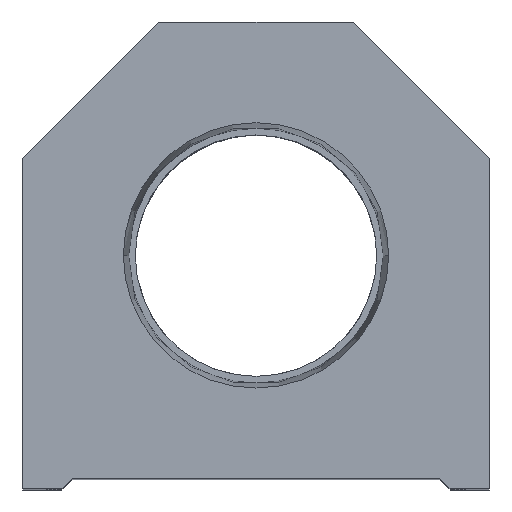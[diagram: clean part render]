
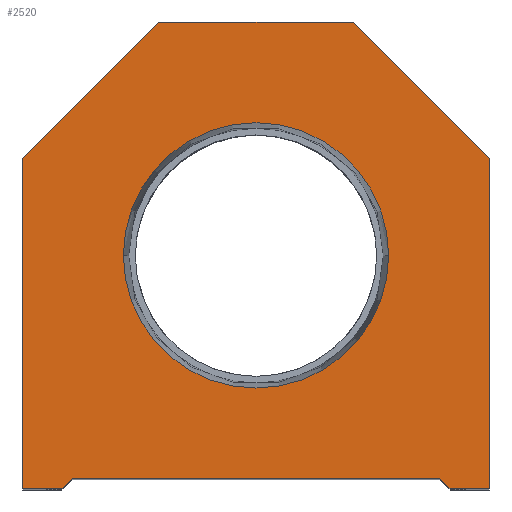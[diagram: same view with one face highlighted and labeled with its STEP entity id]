
A CAD part, top view. The second image highlights one B-rep face of the part: STEP entity #2520.
In plain terms, the highlighted planar face has unit normal (0, 0, 1).
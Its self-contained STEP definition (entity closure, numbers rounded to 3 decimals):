
#177 = CARTESIAN_POINT ( 'NONE',  ( 12.647, 22.25, 0. ) ) ;
#229 = VECTOR ( 'NONE', #13199, 1000. ) ;
#311 = VECTOR ( 'NONE', #10716, 1000. ) ;
#479 = FACE_BOUND ( 'NONE', #10003, .T. ) ;
#563 = ORIENTED_EDGE ( 'NONE', *, *, #9190, .T. ) ;
#640 = CARTESIAN_POINT ( 'NONE',  ( 0., 0., 0. ) ) ;
#897 = VERTEX_POINT ( 'NONE', #14381 ) ;
#980 = DIRECTION ( 'NONE',  ( 1., 0., 0. ) ) ;
#1017 = CIRCLE ( 'NONE', #10119, 12.647 ) ;
#1148 = VECTOR ( 'NONE', #6695, 1000. ) ;
#1155 = CARTESIAN_POINT ( 'NONE',  ( -18.5, 0., 0. ) ) ;
#1500 = EDGE_CURVE ( 'NONE', #14020, #10409, #1636, .T. ) ;
#1609 = VERTEX_POINT ( 'NONE', #1155 ) ;
#1636 = LINE ( 'NONE', #2704, #6437 ) ;
#1910 = EDGE_CURVE ( 'NONE', #8959, #1609, #4456, .T. ) ;
#1966 = CARTESIAN_POINT ( 'NONE',  ( -17.5, 0., 0. ) ) ;
#2080 = CARTESIAN_POINT ( 'NONE',  ( 9.25, 44.5, 0. ) ) ;
#2326 = VERTEX_POINT ( 'NONE', #13251 ) ;
#2350 = ORIENTED_EDGE ( 'NONE', *, *, #11748, .T. ) ;
#2433 = CARTESIAN_POINT ( 'NONE',  ( -17.5, 1., 0. ) ) ;
#2520 = ADVANCED_FACE ( 'NONE', ( #479, #8076 ), #11762, .T. ) ;
#2613 = EDGE_CURVE ( 'NONE', #10409, #5642, #10792, .T. ) ;
#2666 = ORIENTED_EDGE ( 'NONE', *, *, #7105, .F. ) ;
#2704 = CARTESIAN_POINT ( 'NONE',  ( 9.25, 44.5, 0. ) ) ;
#2711 = CARTESIAN_POINT ( 'NONE',  ( 22.25, 31.5, 0. ) ) ;
#2776 = CARTESIAN_POINT ( 'NONE',  ( -17.5, 1., 0. ) ) ;
#3082 = AXIS2_PLACEMENT_3D ( 'NONE', #5364, #11197, #8797 ) ;
#3129 = CARTESIAN_POINT ( 'NONE',  ( -22.25, 0., 0. ) ) ;
#3941 = CARTESIAN_POINT ( 'NONE',  ( -9.25, 44.5, 0. ) ) ;
#4157 = VERTEX_POINT ( 'NONE', #11178 ) ;
#4220 = ORIENTED_EDGE ( 'NONE', *, *, #14326, .T. ) ;
#4413 = DIRECTION ( 'NONE',  ( 0., 0., 1. ) ) ;
#4456 = LINE ( 'NONE', #1966, #11320 ) ;
#4932 = CIRCLE ( 'NONE', #3082, 12.647 ) ;
#5261 = ORIENTED_EDGE ( 'NONE', *, *, #11035, .T. ) ;
#5364 = CARTESIAN_POINT ( 'NONE',  ( 0., 22.25, 0. ) ) ;
#5642 = VERTEX_POINT ( 'NONE', #6091 ) ;
#6091 = CARTESIAN_POINT ( 'NONE',  ( -22.25, 31.5, 0. ) ) ;
#6147 = ORIENTED_EDGE ( 'NONE', *, *, #11644, .T. ) ;
#6437 = VECTOR ( 'NONE', #7854, 1000. ) ;
#6695 = DIRECTION ( 'NONE',  ( 0.707, -0.707, 0. ) ) ;
#7105 = EDGE_CURVE ( 'NONE', #897, #14764, #4932, .T. ) ;
#7559 = ORIENTED_EDGE ( 'NONE', *, *, #2613, .T. ) ;
#7692 = ORIENTED_EDGE ( 'NONE', *, *, #1500, .T. ) ;
#7751 = CARTESIAN_POINT ( 'NONE',  ( -22.25, 0., 0. ) ) ;
#7777 = CARTESIAN_POINT ( 'NONE',  ( 0., 22.25, 0. ) ) ;
#7854 = DIRECTION ( 'NONE',  ( -1., 0., 0. ) ) ;
#8076 = FACE_OUTER_BOUND ( 'NONE', #8593, .T. ) ;
#8291 = LINE ( 'NONE', #13285, #11559 ) ;
#8397 = CARTESIAN_POINT ( 'NONE',  ( -22.25, 31.5, 0. ) ) ;
#8467 = DIRECTION ( 'NONE',  ( 0., 1., 0. ) ) ;
#8507 = VERTEX_POINT ( 'NONE', #2776 ) ;
#8593 = EDGE_LOOP ( 'NONE', ( #12245, #6147, #9953, #2350, #4220, #5261, #563, #7692, #7559, #14082 ) ) ;
#8797 = DIRECTION ( 'NONE',  ( 1., 0., 0. ) ) ;
#8849 = DIRECTION ( 'NONE',  ( 1., 0., 0. ) ) ;
#8959 = VERTEX_POINT ( 'NONE', #7751 ) ;
#9190 = EDGE_CURVE ( 'NONE', #15436, #14020, #14027, .T. ) ;
#9198 = DIRECTION ( 'NONE',  ( 1., 0., 0. ) ) ;
#9297 = EDGE_CURVE ( 'NONE', #5642, #8959, #14271, .T. ) ;
#9502 = EDGE_CURVE ( 'NONE', #14764, #897, #1017, .T. ) ;
#9953 = ORIENTED_EDGE ( 'NONE', *, *, #11946, .T. ) ;
#10003 = EDGE_LOOP ( 'NONE', ( #13727, #2666 ) ) ;
#10034 = DIRECTION ( 'NONE',  ( 0.707, 0.707, 0. ) ) ;
#10119 = AXIS2_PLACEMENT_3D ( 'NONE', #7777, #12462, #8849 ) ;
#10322 = CARTESIAN_POINT ( 'NONE',  ( 22.25, 0., 0. ) ) ;
#10409 = VERTEX_POINT ( 'NONE', #3941 ) ;
#10491 = CARTESIAN_POINT ( 'NONE',  ( 17.5, 1., 0. ) ) ;
#10716 = DIRECTION ( 'NONE',  ( -0.707, -0.707, 0. ) ) ;
#10792 = LINE ( 'NONE', #8397, #311 ) ;
#11035 = EDGE_CURVE ( 'NONE', #4157, #15436, #13066, .T. ) ;
#11084 = LINE ( 'NONE', #16016, #12803 ) ;
#11178 = CARTESIAN_POINT ( 'NONE',  ( 22.25, 0., 0. ) ) ;
#11197 = DIRECTION ( 'NONE',  ( 0., 0., 1. ) ) ;
#11320 = VECTOR ( 'NONE', #11722, 1000. ) ;
#11559 = VECTOR ( 'NONE', #12305, 1000. ) ;
#11644 = EDGE_CURVE ( 'NONE', #1609, #8507, #11084, .T. ) ;
#11722 = DIRECTION ( 'NONE',  ( 1., 0., 0. ) ) ;
#11748 = EDGE_CURVE ( 'NONE', #13760, #2326, #13914, .T. ) ;
#11762 = PLANE ( 'NONE',  #14603 ) ;
#11946 = EDGE_CURVE ( 'NONE', #8507, #13760, #14807, .T. ) ;
#12245 = ORIENTED_EDGE ( 'NONE', *, *, #1910, .T. ) ;
#12305 = DIRECTION ( 'NONE',  ( 1., 0., 0. ) ) ;
#12462 = DIRECTION ( 'NONE',  ( 0., 0., 1. ) ) ;
#12803 = VECTOR ( 'NONE', #10034, 1000. ) ;
#13066 = LINE ( 'NONE', #10322, #15629 ) ;
#13199 = DIRECTION ( 'NONE',  ( 0., -1., 0. ) ) ;
#13251 = CARTESIAN_POINT ( 'NONE',  ( 18.5, 0., 0. ) ) ;
#13285 = CARTESIAN_POINT ( 'NONE',  ( 17.5, 0., 0. ) ) ;
#13727 = ORIENTED_EDGE ( 'NONE', *, *, #9502, .F. ) ;
#13760 = VERTEX_POINT ( 'NONE', #10491 ) ;
#13787 = CARTESIAN_POINT ( 'NONE',  ( 22.25, 31.5, 0. ) ) ;
#13840 = CARTESIAN_POINT ( 'NONE',  ( 9.25, 9.25, 0. ) ) ;
#13914 = LINE ( 'NONE', #13840, #1148 ) ;
#14020 = VERTEX_POINT ( 'NONE', #2080 ) ;
#14027 = LINE ( 'NONE', #13787, #15791 ) ;
#14082 = ORIENTED_EDGE ( 'NONE', *, *, #9297, .T. ) ;
#14271 = LINE ( 'NONE', #3129, #229 ) ;
#14326 = EDGE_CURVE ( 'NONE', #2326, #4157, #8291, .T. ) ;
#14381 = CARTESIAN_POINT ( 'NONE',  ( -12.647, 22.25, 0. ) ) ;
#14603 = AXIS2_PLACEMENT_3D ( 'NONE', #640, #4413, #9198 ) ;
#14764 = VERTEX_POINT ( 'NONE', #177 ) ;
#14807 = LINE ( 'NONE', #2433, #15650 ) ;
#14924 = DIRECTION ( 'NONE',  ( -0.707, 0.707, 0. ) ) ;
#15436 = VERTEX_POINT ( 'NONE', #2711 ) ;
#15629 = VECTOR ( 'NONE', #8467, 1000. ) ;
#15650 = VECTOR ( 'NONE', #980, 1000. ) ;
#15791 = VECTOR ( 'NONE', #14924, 1000. ) ;
#16016 = CARTESIAN_POINT ( 'NONE',  ( -9.25, 9.25, 0. ) ) ;
